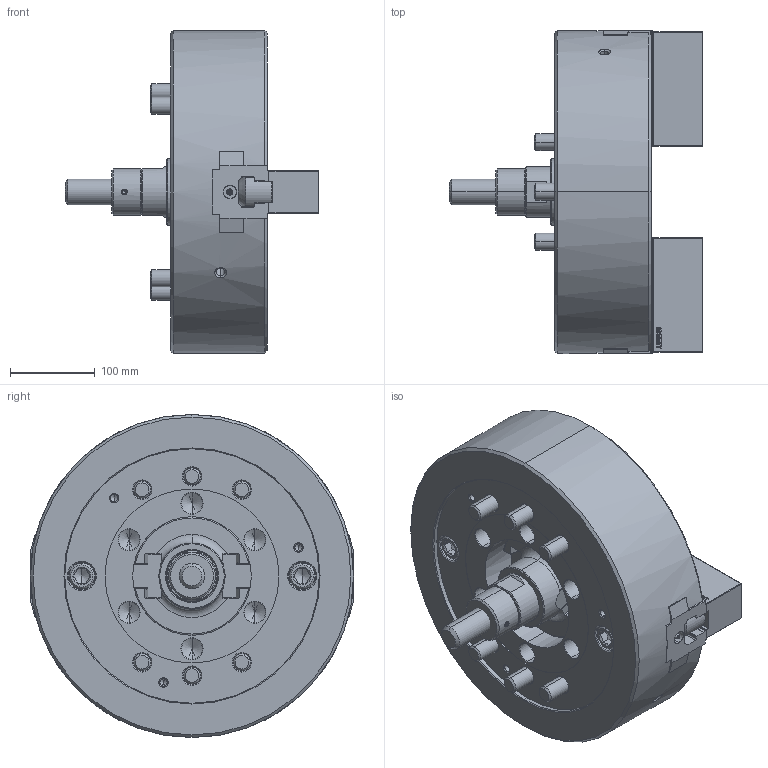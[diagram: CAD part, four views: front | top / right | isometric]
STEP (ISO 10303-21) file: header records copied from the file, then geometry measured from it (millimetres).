
FILE_DESCRIPTION (( 'STEP AP214' ), '1' );
FILE_NAME ('DT1_NT15_OUTSIDE_VIEW_HUL.STEP', '2026-03-23T23:31:57', ( '' ), ( '' ), 'SwSTEP 2.0', 'SolidWorks 2022', '' );
FILE_SCHEMA (( 'AUTOMOTIVE_DESIGN' ));
Length unit declared in the file: millimetre
Products named in the file (11): DT1_NT15_M20x115^DT1_NT15; DT1_NT15_COVER^DT1_NT15; DT1_NT15_BASE^DT1_NT15; DT1_NT15_M6x12^DT1_NT15; DT1_NT15_M20x55^DT1_NT15; DT1_NT15_SOFTJAW^DT1_NT15; DT1_NT15_DN^DT1_NT15; Copy of 61P321208^DT1_NT15; DT1_NT15_OUTSIDE_VIEW_HUL; DT1_NT15_DRAWSCREW^DT1_NT15; DT1_NT15_TNUT^DT1_NT15
Assembly tree (25 placements, depth 2):
  DT1_NT15_OUTSIDE_VIEW_HUL
    DT1_NT15_SOFTJAW^DT1_NT15  x2
    DT1_NT15_TNUT^DT1_NT15  x4
    DT1_NT15_COVER^DT1_NT15
    DT1_NT15_DRAWSCREW^DT1_NT15
    Copy of 61P321208^DT1_NT15
    DT1_NT15_DN^DT1_NT15
    DT1_NT15_BASE^DT1_NT15
    DT1_NT15_M6x12^DT1_NT15  x4
    DT1_NT15_M20x55^DT1_NT15  x4
    DT1_NT15_M20x115^DT1_NT15  x6
Bounding box: 299.56 x 381 x 381 mm (x, y, z)
Volume: 12899403.5 mm3; surface area: 879180 mm2
Topology: 25 solids, 25 shells, 4881 faces, 13945 edges, 9123 vertices
Faces by surface type: plane 2957, cylinder 1316, cone 385, bspline 179, torus 40, sphere 4
Entity records: 121021 total; most frequent: CARTESIAN_POINT 33271, ORIENTED_EDGE 20138, DIRECTION 15628, EDGE_CURVE 10069, LINE 7256, VECTOR 7256, VERTEX_POINT 6608, AXIS2_PLACEMENT_3D 4186
